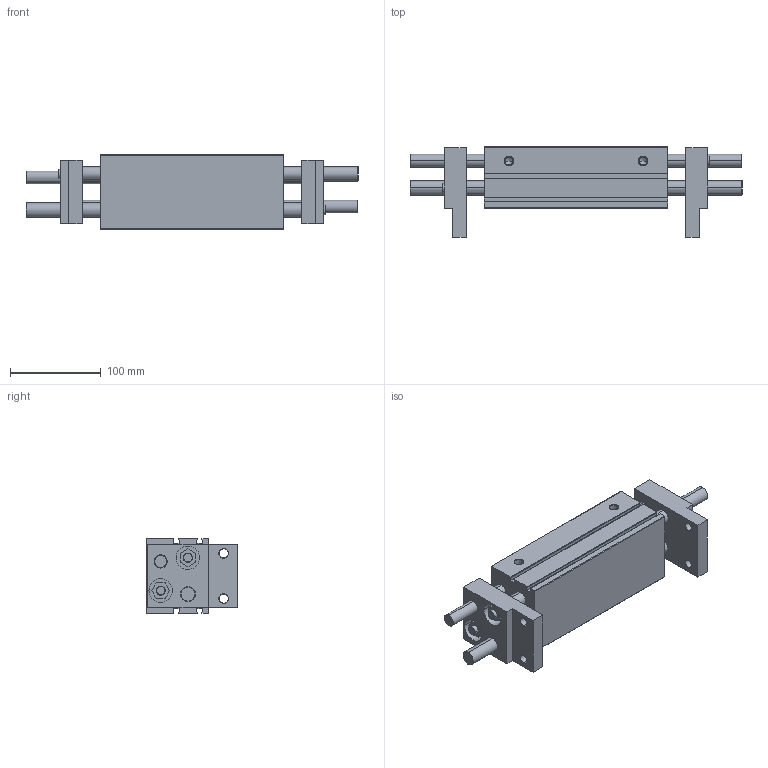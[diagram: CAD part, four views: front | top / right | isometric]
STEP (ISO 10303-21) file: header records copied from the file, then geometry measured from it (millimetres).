
FILE_DESCRIPTION (( 'STEP AP203' ), '1' );
FILE_NAME ('CHL2-32D2.STEP', '2017-06-06T20:10:14', ( '' ), ( '' ), 'SwSTEP 2.0', 'SolidWorks 2016', '' );
FILE_SCHEMA (( 'CONFIG_CONTROL_DESIGN' ));
Length unit declared in the file: millimetre
Products named in the file (3): CHL2-32D2 CORPO; CHL2-32D2 DEDO; CHL2-32D2
Assembly tree (3 placements, depth 2):
  CHL2-32D2
    CHL2-32D2 CORPO
    CHL2-32D2 DEDO  x2
Bounding box: 366 x 100 x 82 mm (x, y, z)
Volume: 1387625.2 mm3; surface area: 237740.4 mm2
Topology: 3 solids, 3 shells, 335 faces, 785 edges, 491 vertices
Faces by surface type: plane 125, cylinder 119, cone 91
Entity records: 7471 total; most frequent: DIRECTION 1334, CARTESIAN_POINT 1199, ORIENTED_EDGE 1150, EDGE_CURVE 575, AXIS2_PLACEMENT_3D 502, VERTEX_POINT 367, LINE 330, VECTOR 330
